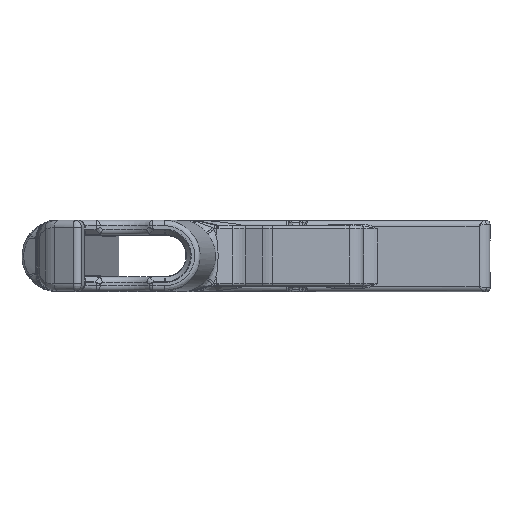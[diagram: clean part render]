
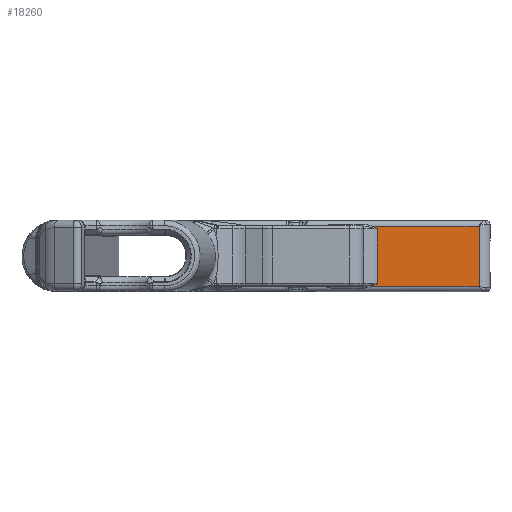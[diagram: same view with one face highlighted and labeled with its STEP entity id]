
A CAD part, top view. The second image highlights one B-rep face of the part: STEP entity #18260.
In plain terms, the highlighted planar face has unit normal (0, 0, 1).
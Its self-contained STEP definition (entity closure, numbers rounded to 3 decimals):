
#750=B_SPLINE_CURVE_WITH_KNOTS('',3,(#35994,#35995,#35996,#35997,#35998,
#35999),.UNSPECIFIED.,.F.,.F.,(4,2,4),(-0.155,0.,0.001),
 .UNSPECIFIED.);
#760=B_SPLINE_CURVE_WITH_KNOTS('',3,(#36144,#36145,#36146,#36147,#36148,
#36149),.UNSPECIFIED.,.F.,.F.,(4,2,4),(-0.156,-0.155,
0.),.UNSPECIFIED.);
#1652=PLANE('',#19927);
#2295=FACE_OUTER_BOUND('',#3538,.T.);
#3538=EDGE_LOOP('',(#14069,#14070,#14071,#14072,#14073,#14074));
#4669=LINE('',#36138,#5493);
#4670=LINE('',#36140,#5494);
#4671=LINE('',#36142,#5495);
#4672=LINE('',#36150,#5496);
#5493=VECTOR('',#23377,10.);
#5494=VECTOR('',#23378,10.);
#5495=VECTOR('',#23379,10.);
#5496=VECTOR('',#23380,10.);
#7915=VERTEX_POINT('',#35992);
#7916=VERTEX_POINT('',#35993);
#7950=VERTEX_POINT('',#36137);
#7951=VERTEX_POINT('',#36139);
#7952=VERTEX_POINT('',#36141);
#7953=VERTEX_POINT('',#36143);
#10081=EDGE_CURVE('',#7915,#7916,#750,.T.);
#10121=EDGE_CURVE('',#7950,#7915,#4669,.T.);
#10122=EDGE_CURVE('',#7951,#7950,#4670,.T.);
#10123=EDGE_CURVE('',#7952,#7951,#4671,.T.);
#10124=EDGE_CURVE('',#7953,#7952,#760,.T.);
#10125=EDGE_CURVE('',#7916,#7953,#4672,.T.);
#14069=ORIENTED_EDGE('',*,*,#10081,.F.);
#14070=ORIENTED_EDGE('',*,*,#10121,.F.);
#14071=ORIENTED_EDGE('',*,*,#10122,.F.);
#14072=ORIENTED_EDGE('',*,*,#10123,.F.);
#14073=ORIENTED_EDGE('',*,*,#10124,.F.);
#14074=ORIENTED_EDGE('',*,*,#10125,.F.);
#18260=ADVANCED_FACE('',(#2295),#1652,.F.);
#19927=AXIS2_PLACEMENT_3D('',#36136,#23375,#23376);
#23375=DIRECTION('center_axis',(0.,0.,-1.));
#23376=DIRECTION('ref_axis',(-1.,0.,0.));
#23377=DIRECTION('',(-1.,0.,0.));
#23378=DIRECTION('',(0.,-1.,0.));
#23379=DIRECTION('',(1.,0.,0.));
#23380=DIRECTION('',(0.,1.,0.));
#35992=CARTESIAN_POINT('',(30.672,-8.25,-14.25));
#35993=CARTESIAN_POINT('',(32.04,-7.5,-14.25));
#35994=CARTESIAN_POINT('Ctrl Pts',(30.672,-8.25,-14.25));
#35995=CARTESIAN_POINT('Ctrl Pts',(31.133,-8.016,-14.25));
#35996=CARTESIAN_POINT('Ctrl Pts',(31.582,-7.76,-14.25));
#35997=CARTESIAN_POINT('Ctrl Pts',(32.034,-7.503,-14.25));
#35998=CARTESIAN_POINT('Ctrl Pts',(32.037,-7.502,-14.25));
#35999=CARTESIAN_POINT('Ctrl Pts',(32.04,-7.5,-14.25));
#36136=CARTESIAN_POINT('Origin',(15.5,0.,-14.25));
#36137=CARTESIAN_POINT('',(60.,-8.25,-14.25));
#36138=CARTESIAN_POINT('',(7.087,-8.25,-14.25));
#36139=CARTESIAN_POINT('',(60.,8.25,-14.25));
#36140=CARTESIAN_POINT('',(60.,0.,-14.25));
#36141=CARTESIAN_POINT('',(30.672,8.25,-14.25));
#36142=CARTESIAN_POINT('',(7.087,8.25,-14.25));
#36143=CARTESIAN_POINT('',(32.04,7.5,-14.25));
#36144=CARTESIAN_POINT('Ctrl Pts',(32.04,7.5,-14.25));
#36145=CARTESIAN_POINT('Ctrl Pts',(32.037,7.502,-14.25));
#36146=CARTESIAN_POINT('Ctrl Pts',(32.034,7.503,-14.25));
#36147=CARTESIAN_POINT('Ctrl Pts',(31.582,7.76,-14.25));
#36148=CARTESIAN_POINT('Ctrl Pts',(31.133,8.016,-14.25));
#36149=CARTESIAN_POINT('Ctrl Pts',(30.672,8.25,-14.25));
#36150=CARTESIAN_POINT('',(32.04,0.,-14.25));
